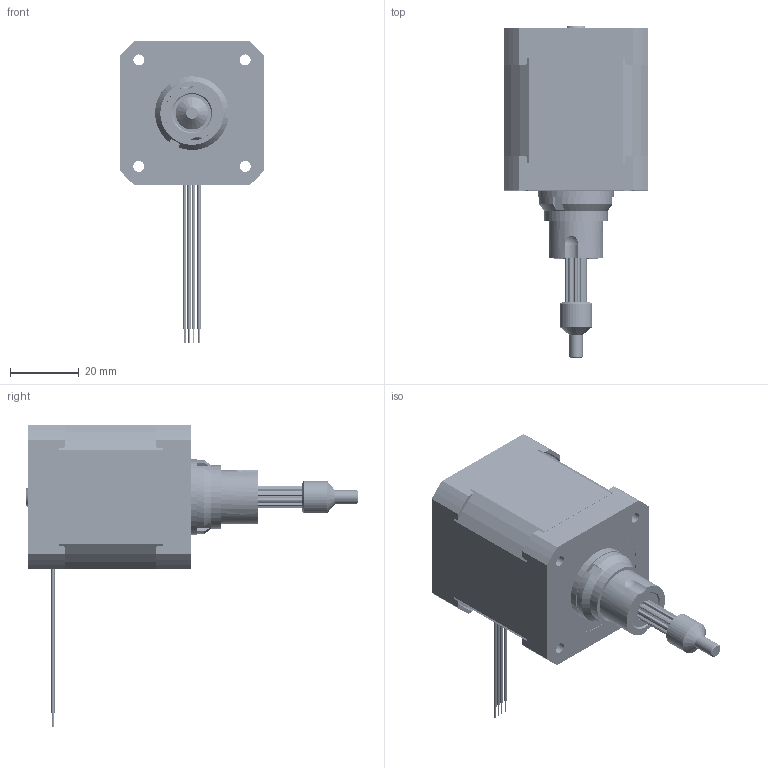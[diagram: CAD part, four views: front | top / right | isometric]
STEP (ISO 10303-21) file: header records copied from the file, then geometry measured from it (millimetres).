
FILE_DESCRIPTION( ('This file contains a STEP AP42 implementation' ,'as created by ZW3D STEP Interface translator.' ,'') ,'2;1' );
FILE_NAME( '42CC4X-XX-XXX-302.stp' ,'251229.1043 9', (''), ('ZWCAD Software Co.'), 'Version 1.0', 'ZW3D to STEP translator', '' );
FILE_SCHEMA(('AUTOMOTIVE_DESIGN { 1 0 10303 214 1 1 1 1 }'));
Length unit declared in the file: millimetre
Products named in the file (1): 0
Bounding box: 42.2 x 96.84 x 88.2 mm (x, y, z)
Volume: 59816.1 mm3; surface area: 185253.3 mm2
Topology: 131 solids, 131 shells, 33211 faces, 98393 edges, 65500 vertices
Faces by surface type: cylinder 19652, plane 13273, torus 156, cone 126, bspline 2, sphere 2
Full cylindrical faces by diameter (mm): 0.5 x8, 1 x2, 2.2 x488, 2.5 x3, 3 x1, 3.2 x249, 3.23 x1, 3.3 x4, 3.5 x2, 3.94 x3, 4 x5, 4.05 x1, 6 x6, 6.9 x2, 8 x2, 8.26 x1, 9 x1, 9.53 x1, 10 x45, 11 x3, 11.13 x2, 12.5 x1, 14 x1, 14.8 x1, 15.88 x2, 16 x2, 16.5 x1, 18.5 x1, 22 x3, 24 x3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
Entity records: 1170582 total; most frequent: DIRECTION 198709, ORIENTED_EDGE 196776, CARTESIAN_POINT 194939, EDGE_CURVE 98388, AXIS2_PLACEMENT_3D 70104, VERTEX_POINT 65498, VECTOR 58501, LINE 58501
